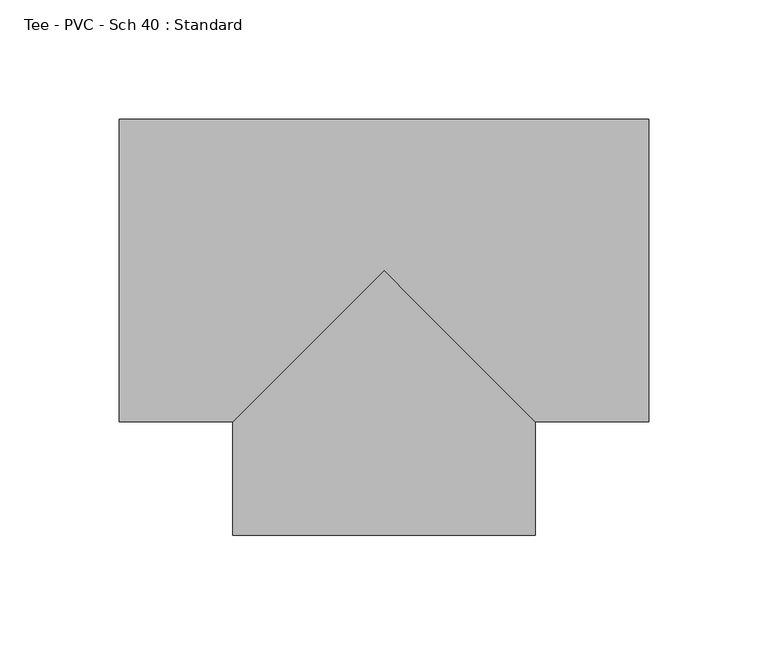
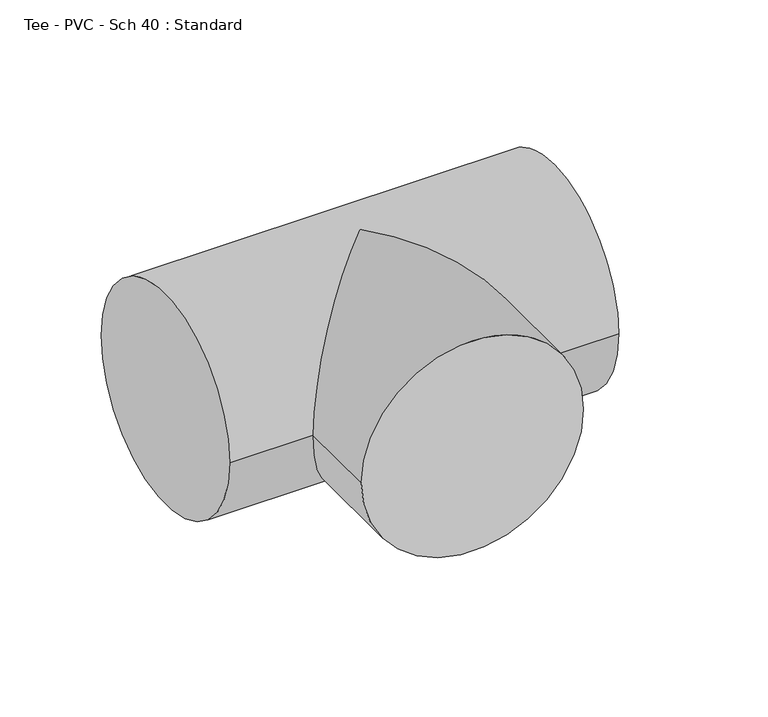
"""IFC4 building model written with IfcOpenShell, lengths in millimetres: pipe fitting geometry, Tee - PVC - Sch 40 : Standard."""

from ifc_helpers import new_model, si_unit, frame, origin, place, context, project, spatial, circle_curve, ellipse_curve, source, transform, mapped, element, save
from ifc_brep_helpers import plane_surface, cylinder_surface, advanced_brep


def tee_pvc_sch_40_standard_5c3f4d2b(model_context):
    return source(origin(), model_context, "Body", "AdvancedBrep", [
        advanced_brep(
        [(-111.125, -63.5, 0.0), (-111.125, 63.5, 0.0), (111.125, -63.5, 0.0), (111.125, 63.5, 0.0), (-63.5, -63.5, 0.0), (0.0, 0.0, 63.5), (63.5, -63.5, 0.0), (0.0, 0.0, -63.5), (-63.5, -111.125, 0.0), (63.5, -111.125, 0.0)],
        [
            (0, 1, circle_curve(frame((-111.125, 0.0, 0.0), z_axis=(-1.0, 0.0, 0.0), x_axis=(0.0, 1.0, 0.0)), 63.5)),
            (1, 0, circle_curve(frame((-111.125, 0.0, 0.0), z_axis=(-1.0, 0.0, 0.0), x_axis=(0.0, 1.0, 0.0)), 63.5)),
            (2, 3, circle_curve(frame((111.125, 0.0, 0.0), z_axis=(1.0, 0.0, 0.0), x_axis=(0.0, 1.0, 0.0)), 63.5)),
            (3, 2, circle_curve(frame((111.125, 0.0, 0.0), z_axis=(1.0, 0.0, 0.0), x_axis=(0.0, 1.0, 0.0)), 63.5)),
            (0, 4),
            (4, 5, ellipse_curve(frame((0.0, 0.0, 0.0), z_axis=(-0.7071067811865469, 0.7071067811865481, 0.0), x_axis=(-0.707106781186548, -0.7071067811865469, 0.0)), 89.8025612, 63.5)),
            (5, 6, ellipse_curve(frame((0.0, 0.0, 0.0), z_axis=(0.707106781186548, 0.7071067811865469, 0.0), x_axis=(-0.707106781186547, 0.707106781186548, 0.0)), 89.8025612, 63.5)),
            (6, 2),
            (3, 1),
            (6, 7, ellipse_curve(frame((0.0, 0.0, 0.0), z_axis=(0.707106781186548, 0.7071067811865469, 0.0), x_axis=(-0.707106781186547, 0.707106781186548, 0.0)), 89.8025612, 63.5)),
            (7, 4, ellipse_curve(frame((0.0, 0.0, 0.0), z_axis=(-0.7071067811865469, 0.7071067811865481, 0.0), x_axis=(-0.707106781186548, -0.7071067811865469, 0.0)), 89.8025612, 63.5)),
            (8, 9, circle_curve(frame((0.0, -111.125, 0.0), z_axis=(0.0, -1.0, 0.0), x_axis=(1.0, 0.0, 0.0)), 63.5)),
            (9, 8, circle_curve(frame((0.0, -111.125, 0.0), z_axis=(0.0, -1.0, 0.0), x_axis=(1.0, 0.0, 0.0)), 63.5)),
            (9, 6),
            (4, 8),
        ],
        [
            plane_surface(frame((-111.125, 0.0, 0.0), z_axis=(-1.0, 0.0, 0.0), x_axis=(0.0, 0.0, 1.0))),
            plane_surface(frame((111.125, 0.0, 0.0), z_axis=(1.0, 0.0, 0.0), x_axis=(0.0, 0.0, 1.0))),
            cylinder_surface(frame((-111.125, 0.0, 0.0), z_axis=(-1.0, 0.0, 0.0), x_axis=(0.0, 1.0, 0.0)), 63.5),
            plane_surface(frame((0.0, -111.125, 0.0), z_axis=(0.0, -1.0, 0.0), x_axis=(0.0, 0.0, 1.0))),
            cylinder_surface(frame((0.0, 0.0, 0.0), z_axis=(0.0, 1.0, 0.0), x_axis=(1.0, 0.0, 0.0)), 63.5),
        ],
        [
            (0, [[1, 2]]),
            (1, [[3, 4]]),
            (2, [[-1, 5, 6, 7, 8, -4, 9]]),
            (2, [[-2, -9, -3, -8, 10, 11, -5]]),
            (3, [[12, 13]]),
            (4, [[-13, 14, -7, -6, 15]]),
            (4, [[-12, -15, -11, -10, -14]]),
        ],
    ),
    ])


if __name__ == "__main__":
    model = new_model("IFC4")
    model_context = context("Model", 3, world=origin())
    ifc_project = project(units=[si_unit("LENGTHUNIT", "METRE", prefix="MILLI")], contexts=[model_context])
    site = spatial("IfcSite", under=ifc_project)
    building = spatial("IfcBuilding", under=site)
    placement = place(None, origin())
    tee_pvc_sch_40_standard_shape = tee_pvc_sch_40_standard_5c3f4d2b(model_context)
    element("IfcPipeFitting", 1, ObjectType="Tee - PVC - Sch 40 : Standard", at=placement, inside=building, context=model_context, shape_type="MappedRepresentation", body=[
        mapped(tee_pvc_sch_40_standard_shape, transform((0.0, 0.0, 0.0), x_axis=(1.0, 0.0, 0.0), y_axis=(0.0, 1.0, 0.0), z_axis=(0.0, 0.0, 1.0))),
    ])
    save(model, "model.ifc")
